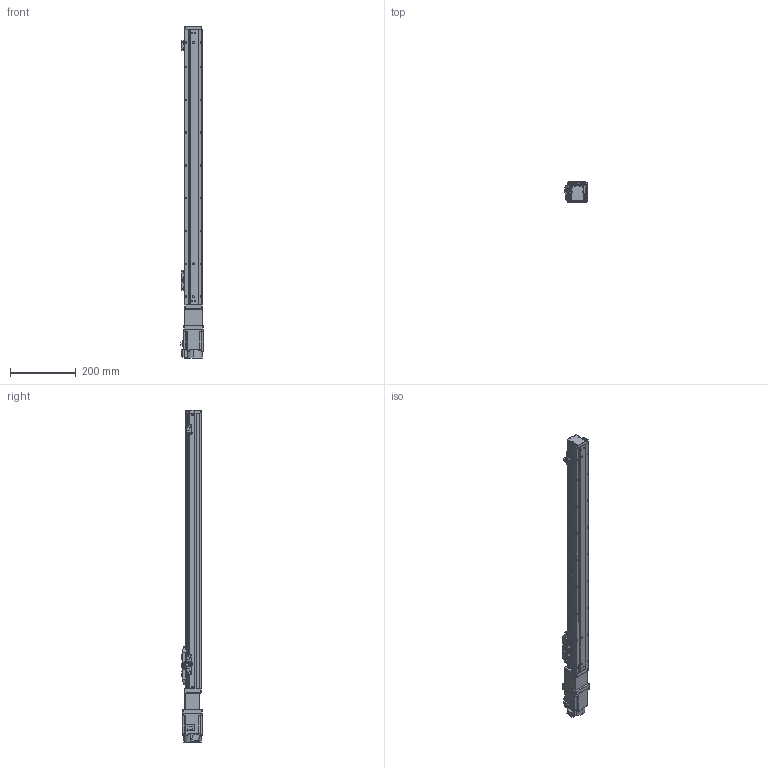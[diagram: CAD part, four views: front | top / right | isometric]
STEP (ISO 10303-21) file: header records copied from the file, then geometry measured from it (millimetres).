
FILE_DESCRIPTION (( 'STEP AP203' ), '1' );
FILE_NAME ('GTH5-700-BC-M20-C4.step', '2022-12-16T03:17:38', ( '微软用户' ), ( '微软中国' ), 'SwSTEP 2.0', 'SolidWorks 2020', '' );
FILE_SCHEMA (( 'CONFIG_CONTROL_DESIGN' ));
Length unit declared in the file: millimetre
Products named in the file (20): GTH50-001_700; GTH50-024; 三菱伺服电机[HG-KN23J-S100]; GBT 70.1-M4×16; GBT 70.1-M2.5×6; GTH5-700-BC-M20-C4; GTH50-003; GTH50-028; GTH50-006; GTH50-013; GTH50-022-1; GTH50-004; GTH50-023; CTHA60-027; GBT 70.3-M3℅6; GBT 70.1-M3℅6; CTHA60-013; BTH-M3X5X6; GBT96.1-2002 3×0.8; CTHA60-006-4_CTHA60-006-4
Assembly tree (60 placements, depth 2):
  GTH5-700-BC-M20-C4
    GTH50-006
    GTH50-004
    GBT 70.3-M3℅6  x6
    BTH-M3X5X6  x8
    GTH50-001_700
    GBT 70.1-M4×16  x8
    GTH50-003
    GTH50-013
    GTH50-023  x3
    GBT 70.1-M3℅6  x12
    GBT96.1-2002 3×0.8  x6
    GTH50-024  x3
    GBT 70.1-M2.5×6  x2
    GTH50-028  x2
    GTH50-022-1
    CTHA60-027
    CTHA60-013
    CTHA60-006-4_CTHA60-006-4
    三菱伺服电机[HG-KN23J-S100]
Bounding box: 68.84 x 62.13 x 1012.2 mm (x, y, z)
Volume: 2242782 mm3; surface area: 334965.1 mm2
Topology: 62 solids, 62 shells, 2092 faces, 4864 edges, 2992 vertices
Faces by surface type: plane 1091, cylinder 604, cone 235, torus 154, sphere 8
Entity records: 37686 total; most frequent: CARTESIAN_POINT 7880, DIRECTION 5588, ORIENTED_EDGE 5414, EDGE_CURVE 2707, AXIS2_PLACEMENT_3D 1940, VERTEX_POINT 1732, LINE 1708, VECTOR 1708
